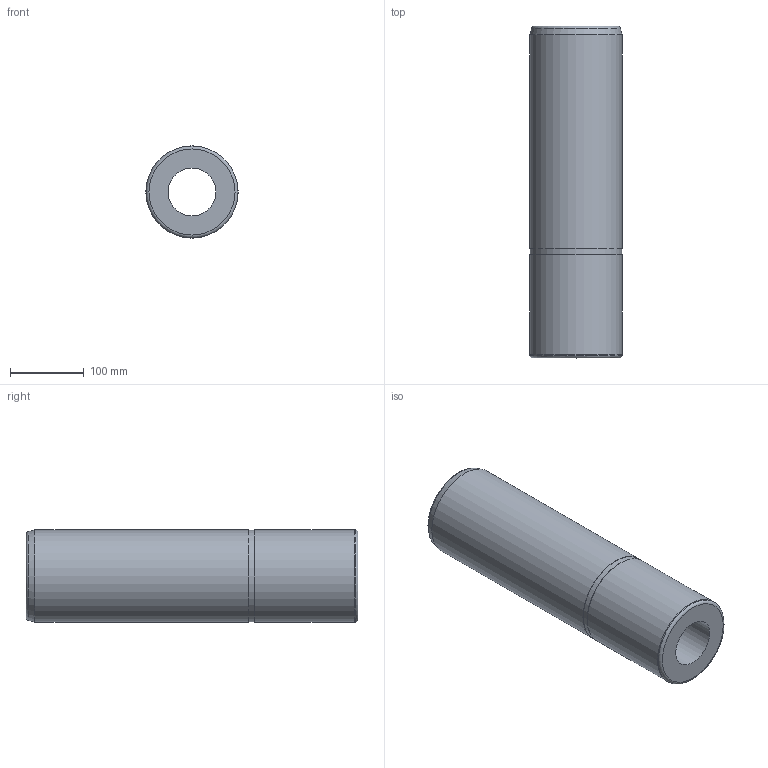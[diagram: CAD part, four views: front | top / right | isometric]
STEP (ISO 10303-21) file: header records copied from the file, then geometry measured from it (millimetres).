
FILE_DESCRIPTION( ( 'STEP AP203' ), '1' );
FILE_NAME( 'D:/Cuma/26 04 2010/D15/D15_125450.step', '2003-02-25T15:09:59', ( ' ' ), ( ' ' ), 'XStep 1.0', ' ', ' ' );
FILE_SCHEMA( ( 'CONFIG_CONTROL_DESIGN' ) );
Length unit declared in the file: metre
Products named in the file (1): 1
Bounding box: 125 x 450 x 125 mm (x, y, z)
Volume: 4012342.8 mm3; surface area: 286762.2 mm2
Topology: 1 solids, 1 shells, 18 faces, 37 edges, 23 vertices
Faces by surface type: cylinder 8, cone 4, plane 4, torus 2
Full cylindrical faces by diameter (mm): 10.25 x4, 65 x1, 124 x1, 125 x2
Entity records: 421 total; most frequent: DIRECTION 74, CARTESIAN_POINT 57, AXIS2_PLACEMENT_3D 37, EDGE_LOOP 36, ORIENTED_EDGE 36, FACE_OUTER_BOUND 28, VERTEX_POINT 20, ADVANCED_FACE 18
